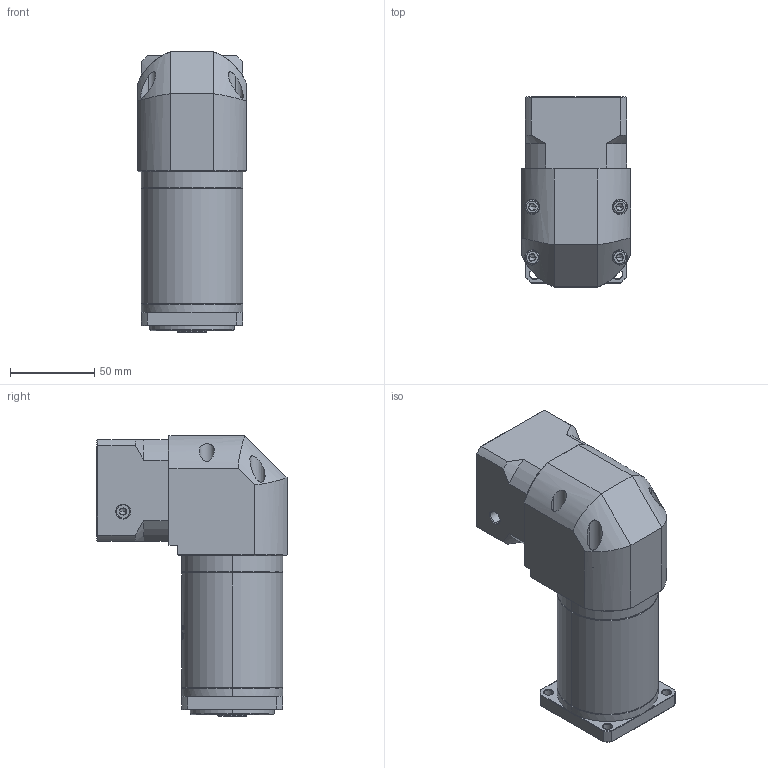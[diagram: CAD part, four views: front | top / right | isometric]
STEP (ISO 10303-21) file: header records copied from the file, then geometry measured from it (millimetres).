
FILE_DESCRIPTION (( 'STEP AP214' ), '1' );
FILE_NAME ('ZFR060-K10-L3-P2-6.35-38.1-47.14x47.14-M4.step', '2023-08-17T03:39:59', ( '' ), ( '' ), 'SwSTEP 2.0', 'SolidWorks 2016', '' );
FILE_SCHEMA (( 'AUTOMOTIVE_DESIGN' ));
Length unit declared in the file: millimetre
Products named in the file (1): ZFR060-K10-L3-P2-6.35-38.1-47.14x47.14-M4
Bounding box: 65 x 112.7 x 166.5 mm (x, y, z)
Volume: 634227.4 mm3; surface area: 85327.1 mm2
Topology: 5 solids, 6 shells, 1853 faces, 4940 edges, 3184 vertices
Faces by surface type: plane 841, bspline 359, cylinder 358, cone 283, torus 12
Entity records: 98167 total; most frequent: CARTESIAN_POINT 35582, ORIENTED_EDGE 9840, DIRECTION 7361, EDGE_CURVE 4920, VERTEX_POINT 3184, LINE 2537, VECTOR 2537, AXIS2_PLACEMENT_3D 2412
